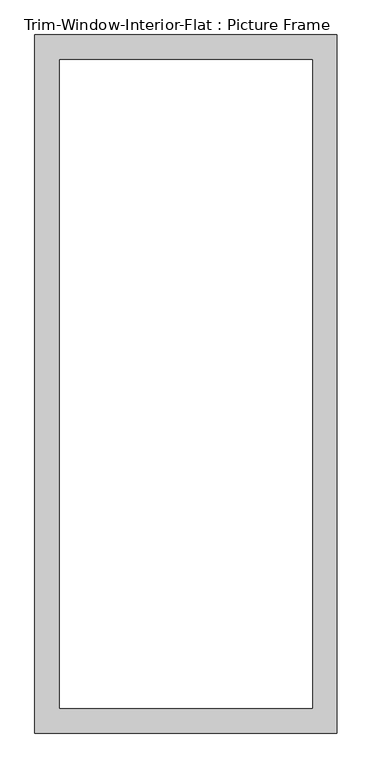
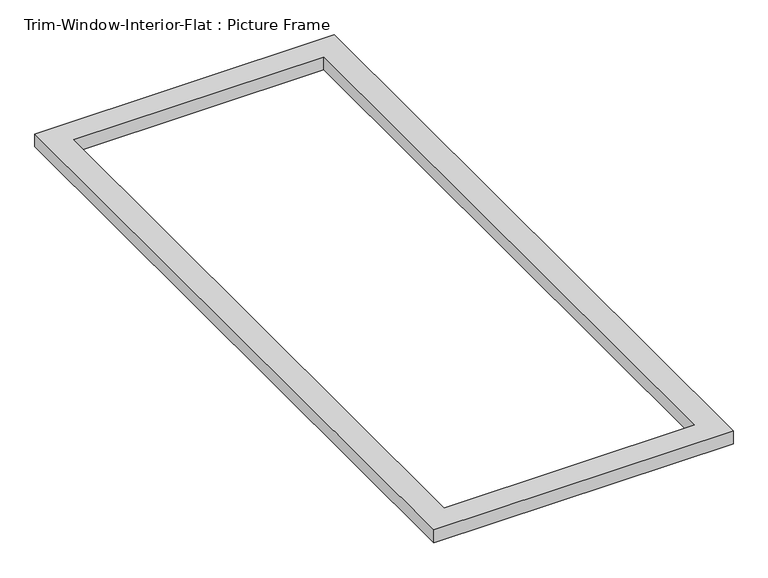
"""IFC4 building model written with IfcOpenShell, lengths in millimetres: proxy geometry, Trim-Window-Interior-Flat : Picture Frame."""

from ifc_helpers import new_model, si_unit, origin, origin_with_axes, place, context, project, spatial, polyline, outline, extrude, source, transform, mapped, element, save


def trim_window_interior_flat_picture_frame_978fd00d(model_context):
    return source(origin(), model_context, "Body", "SweptSolid", [
        extrude(outline(polyline([(349.25, 44.45), (349.25, -1568.45), (-349.25, -1568.45), (-349.25, 44.45), (349.25, 44.45)]), holes=[polyline([(292.1, -12.7), (-292.1, -12.7), (-292.1, -1511.3), (292.1, -1511.3), (292.1, -12.7)])]), origin_with_axes(), (0.0, 0.0, 1.0), 31.75),
    ])


if __name__ == "__main__":
    model = new_model("IFC4")
    model_context = context("Model", 3, world=origin())
    ifc_project = project(units=[si_unit("LENGTHUNIT", "METRE", prefix="MILLI")], contexts=[model_context])
    site = spatial("IfcSite", under=ifc_project)
    building = spatial("IfcBuilding", under=site)
    placement = place(None, origin())
    trim_window_interior_flat_picture_frame_shape = trim_window_interior_flat_picture_frame_978fd00d(model_context)
    element("IfcBuildingElementProxy", 1, Name="Trim-Window-Interior-Flat : Picture Frame", ObjectType="Trim-Window-Interior-Flat : Picture Frame", at=placement, inside=building, context=model_context, shape_type="MappedRepresentation", body=[
        mapped(trim_window_interior_flat_picture_frame_shape, transform((0.0, 0.0, 0.0), x_axis=(1.0, 0.0, 0.0), y_axis=(0.0, 1.0, 0.0), z_axis=(0.0, 0.0, 1.0))),
    ])
    save(model, "model.ifc")
